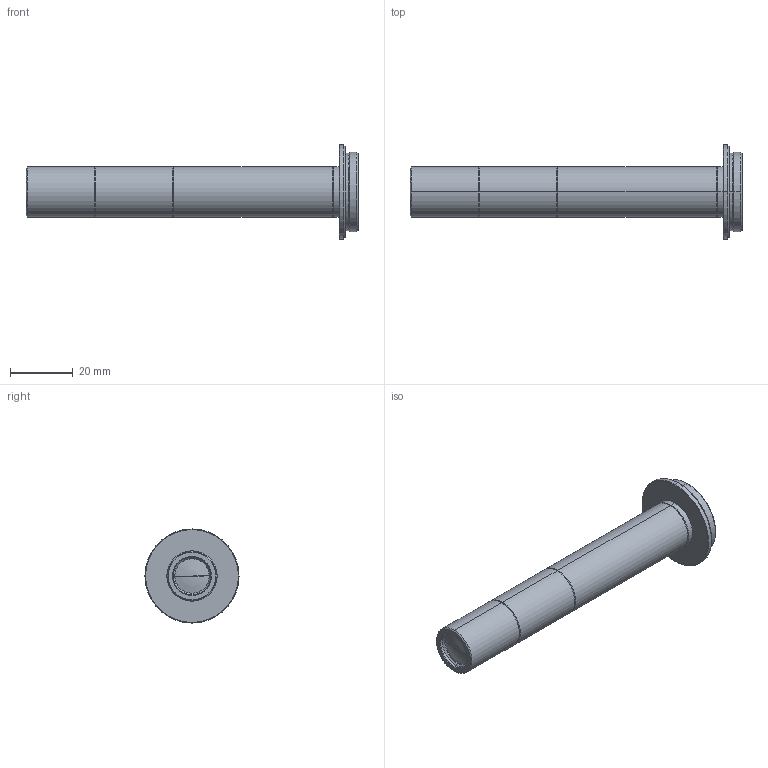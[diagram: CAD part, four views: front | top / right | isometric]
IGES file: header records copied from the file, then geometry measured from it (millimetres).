
Start section: SolidWorks IGES file using analytic representation for surfaces
Bounding box: 105.91 x 30 x 30 mm (x, y, z)
Surface area: 10809 mm2 (no closed solid volume)
Topology: 0 solids, 0 shells, 97 faces, 1120 edges, 1118 vertices
Faces by surface type: revolution 86, bspline 11
